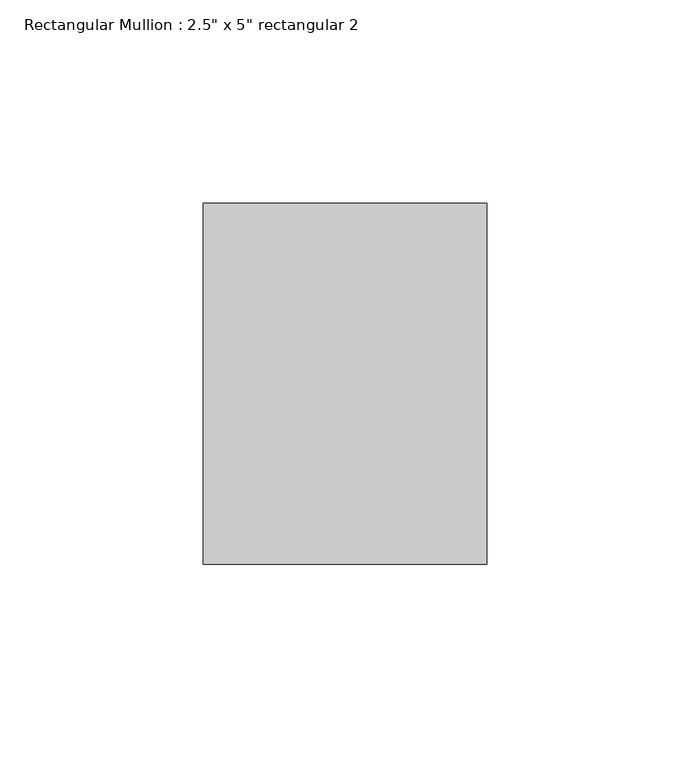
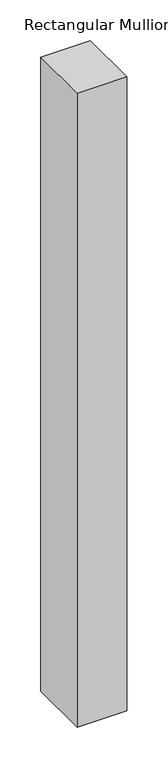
"""IFC4 building model written with IfcOpenShell, lengths in millimetres: member geometry."""

from ifc_helpers import new_model, si_unit, frame, origin, place, context, project, spatial, polyline, outline, extrude, source, transform, mapped, element, save


def member_41a117a3(model_context):
    return source(origin(), model_context, "Body", "SweptSolid", [
        extrude(outline(polyline([(0.0, 44.45), (0.0, -44.45), (-69.85, -44.45), (-69.85, 44.45), (0.0, 44.45)])), frame((0.0, 0.0, -946.15), z_axis=(0.0, 0.0, 1.0), x_axis=(1.0, 0.0, 0.0)), (0.0, 0.0, 1.0), 946.15),
    ])


if __name__ == "__main__":
    model = new_model("IFC4")
    model_context = context("Model", 3, world=origin())
    ifc_project = project(units=[si_unit("LENGTHUNIT", "METRE", prefix="MILLI")], contexts=[model_context])
    site = spatial("IfcSite", under=ifc_project)
    building = spatial("IfcBuilding", under=site)
    placement = place(None, origin())
    member_shape = member_41a117a3(model_context)
    element("IfcMember", 1, ObjectType="Rectangular Mullion : 2.5\" x 5\" rectangular 2", at=placement, inside=building, context=model_context, shape_type="MappedRepresentation", body=[
        mapped(member_shape, transform((0.0, 0.0, 0.0), x_axis=(1.0, 0.0, 0.0), y_axis=(0.0, 1.0, 0.0), z_axis=(0.0, 0.0, 1.0))),
    ])
    save(model, "model.ifc")
